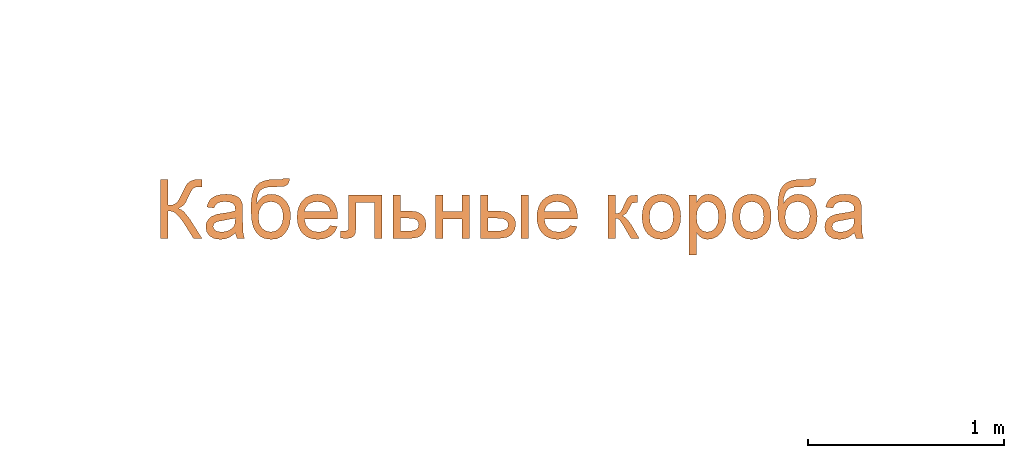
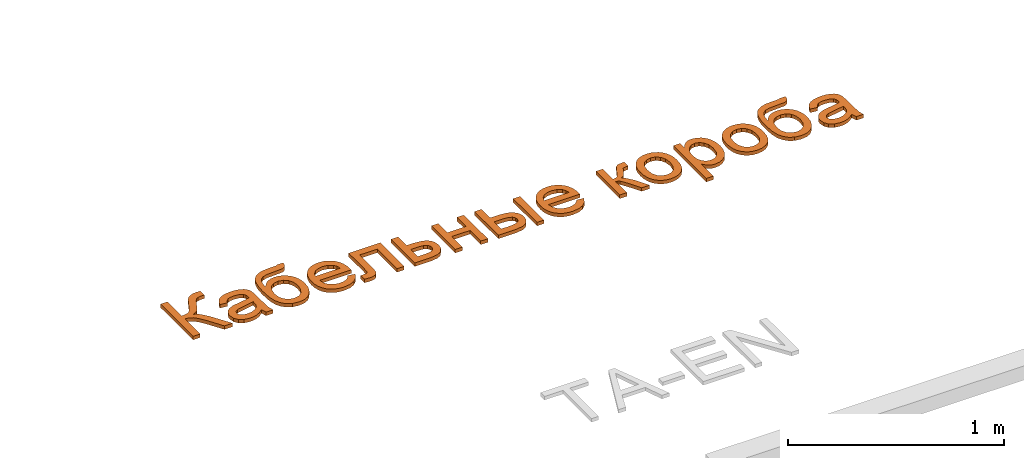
# One storey, part 28 of 71: 1 proxy.
"""IFC2X3 building model written with IfcOpenShell, lengths in millimetres."""

from ifc_helpers import new_model, entity, si_unit, converted_unit, derived_unit, direction, frame, frame_2d, origin, place, context, subcontext, project, spatial, polyline, rectangle, outline, extrude, element, save


model = new_model("IFC2X3")

# Units and contexts
model_context = context("Model", 3, precision=0.01, world=origin(), true_north=direction((6.12303176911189e-17, 1.0)))
body_context = subcontext(model_context, "Body", "Model", "MODEL_VIEW")
ifc_project = project(units=[si_unit("LENGTHUNIT", "METRE", prefix="MILLI"), si_unit("AREAUNIT", "SQUARE_METRE"), si_unit("VOLUMEUNIT", "CUBIC_METRE"), converted_unit("PLANEANGLEUNIT", "DEGREE", entity("IfcRatioMeasure", 0.0174532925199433), si_unit("PLANEANGLEUNIT", "RADIAN"), dimensions=[0, 0, 0, 0, 0, 0, 0]), si_unit("MASSUNIT", "GRAM", prefix="KILO"), derived_unit("MASSDENSITYUNIT", [(si_unit("MASSUNIT", "GRAM", prefix="KILO"), 1), (si_unit("LENGTHUNIT", "METRE"), -3)]), si_unit("TIMEUNIT", "SECOND"), si_unit("FREQUENCYUNIT", "HERTZ"), si_unit("THERMODYNAMICTEMPERATUREUNIT", "DEGREE_CELSIUS"), derived_unit("THERMALTRANSMITTANCEUNIT", [(si_unit("MASSUNIT", "GRAM", prefix="KILO"), 1), (si_unit("THERMODYNAMICTEMPERATUREUNIT", "KELVIN"), -1), (si_unit("TIMEUNIT", "SECOND"), -3)]), derived_unit("VOLUMETRICFLOWRATEUNIT", [(si_unit("LENGTHUNIT", "METRE"), 3), (si_unit("TIMEUNIT", "SECOND"), -1)]), si_unit("ELECTRICCURRENTUNIT", "AMPERE"), si_unit("ELECTRICVOLTAGEUNIT", "VOLT"), si_unit("POWERUNIT", "WATT"), si_unit("FORCEUNIT", "NEWTON", prefix="KILO"), si_unit("ILLUMINANCEUNIT", "LUX"), si_unit("LUMINOUSFLUXUNIT", "LUMEN"), si_unit("LUMINOUSINTENSITYUNIT", "CANDELA"), derived_unit("USERDEFINED", [(si_unit("MASSUNIT", "GRAM", prefix="KILO"), -1), (si_unit("LENGTHUNIT", "METRE"), -2), (si_unit("TIMEUNIT", "SECOND"), 3), (si_unit("LUMINOUSFLUXUNIT", "LUMEN"), 1)]), derived_unit("LINEARVELOCITYUNIT", [(si_unit("LENGTHUNIT", "METRE"), 1), (si_unit("TIMEUNIT", "SECOND"), -1)]), si_unit("PRESSUREUNIT", "PASCAL"), derived_unit("USERDEFINED", [(si_unit("LENGTHUNIT", "METRE"), -2), (si_unit("MASSUNIT", "GRAM", prefix="KILO"), 1), (si_unit("TIMEUNIT", "SECOND"), -2)])], contexts=[model_context])

# Site, building, storey
site_placement = place(None, origin())
site = spatial("IfcSite", under=ifc_project, at=site_placement, Name="Default", CompositionType="ELEMENT")
building_placement = place(site_placement, origin())
building = spatial("IfcBuilding", under=site, at=building_placement, Name="Наименование здания", CompositionType="ELEMENT")
storey_placement = place(building_placement, origin())
storey = spatial("IfcBuildingStorey", under=building, at=storey_placement, Name="Этаж 01", CompositionType="ELEMENT", Elevation=0.0)

# Proxy
proxy_placement = place(storey_placement, origin())
element("IfcBuildingElementProxy", 1, at=proxy_placement, inside=storey, Name="Текст модели:300 мм Arial", ObjectType="Текст модели:300 мм Arial", context=body_context, shape_type="SweptSolid", body=[
    extrude(outline(polyline([(-113.949345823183, -119.34472944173), (187.419584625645, -119.34472944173), (187.419584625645, -81.6736131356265), (46.1528984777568, -81.6736131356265), (49.1603337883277, -59.8306196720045), (58.1826397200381, -42.4206042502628), (75.2799554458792, -25.3968649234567), (102.512420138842, -4.71269974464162), (187.419584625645, 48.8509187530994), (187.419584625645, 92.5552997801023), (86.9142235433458, 29.2060202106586), (51.4136110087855, 0.529618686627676), (40.5886833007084, -13.9603333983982), (34.3806746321, -28.5514530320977), (18.7824780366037, -2.54219597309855), (2.08063545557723, 9.55192461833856), (-52.9729051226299, 36.0118371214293), (-67.2283324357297, 46.4964739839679), (-74.0157552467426, 58.6733680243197), (-76.2782295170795, 75.9270335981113), (-75.8367711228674, 92.5552997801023), (-113.507887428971, 92.5552997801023), (-113.949345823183, 67.8336297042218), (-111.834024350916, 50.2212791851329), (-105.488059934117, 34.1724271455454), (-96.0426897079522, 20.6527638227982), (-84.6291508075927, 10.6279794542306), (-9.66399724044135, -26.1142348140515), (7.92995917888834, -39.5511246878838), (15.4071607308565, -56.1701938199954), (17.8995612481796, -81.6736131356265), (-113.949345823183, -81.6736131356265), (-113.949345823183, -119.34472944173)])), frame((-476.780492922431, 5189.93839492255, 0.0), z_axis=(0.0, 0.0, 1.0), x_axis=(0.0, -1.0, 0.0)), (0.0, 0.0, 1.0), 20.0),
    extrude(outline(polyline([(109.632642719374, 21.6400019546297), (139.414275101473, 21.6400019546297), (151.326928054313, 57.3779608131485), (118.904502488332, 60.2746899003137), (56.2118396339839, 79.1557794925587), (11.748793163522, 93.9767949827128), (-20.1035933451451, 102.655348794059), (-34.9333339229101, 102.809492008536), (-48.012240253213, 99.7818866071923), (-60.1401120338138, 92.6854820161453), (-72.1167489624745, 80.6332276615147), (-83.2645025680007, 63.0696262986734), (-92.9057243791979, 39.4391806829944), (-99.5047989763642, 13.650730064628), (-101.433043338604, -10.107683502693), (-98.7108160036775, -30.9664596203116), (-91.3584755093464, -48.0559978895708), (-79.0880939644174, -62.4320339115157), (-61.6117434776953, -75.1503032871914), (-45.2318456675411, -40.9014260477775), (-57.7232627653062, -28.8462633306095), (-63.8802662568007, -15.528871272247), (-64.0809432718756, 1.05752027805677), (-58.7033809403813, 22.9196814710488), (-48.4543113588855, 45.0581371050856), (-35.2038116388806, 58.9833769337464), (-22.308132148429, 62.8863994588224), (-5.53851375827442, 60.0303874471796), (2.34896544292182, 57.1685587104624), (0.499246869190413, 29.5158477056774), (-6.02711866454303, -8.9094381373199), (-10.9597015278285, -41.6226999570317), (-7.57436753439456, -70.5550904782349), (-1.92341912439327, -83.6165466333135), (6.95581170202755, -95.3692396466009), (18.6997796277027, -104.984286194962), (32.944939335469, -111.632802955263), (58.4832707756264, -115.114112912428), (82.3289352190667, -107.968266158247), (102.393728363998, -90.1778125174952), (116.589445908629, -61.7253018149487), (121.426052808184, -41.3405887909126), (122.301469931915, -21.0896604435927), (118.58167424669, -0.315226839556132), (109.632642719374, 21.6400019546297)]), holes=[polyline([(38.156725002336, 45.4653078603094), (48.2080259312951, 41.8822052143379), (63.7910324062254, 35.1173539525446), (73.9644845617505, 27.014655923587), (82.023557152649, 13.7030805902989), (86.8892476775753, -3.19741411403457), (87.6483302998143, -22.296630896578), (83.3875791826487, -42.2043724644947), (75.4157574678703, -59.6632727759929), (65.227763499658, -70.8575601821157), (53.8589743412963, -75.9384695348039), (42.3447670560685, -75.0572356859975), (30.2227120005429, -65.5876072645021), (25.4413639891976, -48.5213358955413), (29.8969753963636, -15.8429744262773), (38.156725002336, 45.4653078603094)])]), frame((-269.903563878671, 5127.93563512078, 0.0), z_axis=(0.0, 0.0, 1.0), x_axis=(0.316227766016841, -0.948683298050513, 0.0)), (0.0, 0.0, 1.0), 20.0),
    extrude(outline(polyline([(-113.288756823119, 71.1787230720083), (-141.510608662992, 54.1482952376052), (-129.203599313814, 40.6605330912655), (-118.008509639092, 33.9996047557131), (-107.205239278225, 32.580583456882), (-96.0736878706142, 34.8185424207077), (-21.4409333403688, 74.5705532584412), (2.32590846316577, 81.3073745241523), (20.3664318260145, 79.0028904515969), (37.1057783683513, 69.8118357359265), (53.2325508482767, 53.9993604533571), (69.4353520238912, 31.8306146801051), (45.5941107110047, 42.0210394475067), (22.8699481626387, 45.8389018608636), (1.23761199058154, 43.2904471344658), (-19.3281501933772, 34.3819204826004), (-35.9150659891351, 22.1463238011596), (-48.9496088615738, 7.60189855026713), (-58.4317788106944, -9.2513552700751), (-64.3615758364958, -28.413437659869), (-66.3162260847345, -48.9739728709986), (-63.8729557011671, -70.0225851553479), (-57.0317646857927, -91.5592745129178), (-45.7926530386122, -113.584040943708), (-24.2287426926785, -142.572017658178), (-0.364421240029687, -161.879097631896), (24.2730848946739, -173.211038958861), (48.1565492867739, -178.273599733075), (72.8418448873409, -175.461895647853), (99.8848446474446, -163.171042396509), (126.701387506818, -141.800326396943), (141.636002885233, -117.223100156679), (147.228456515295, -90.1947630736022), (146.018514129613, -61.4707145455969), (133.67430502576, -24.5666571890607), (105.863958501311, 27.0017063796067), (83.8410588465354, 60.0389917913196), (62.401204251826, 85.1944773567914), (41.5443947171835, 102.468163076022), (21.2706302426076, 111.860048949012), (0.612785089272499, 114.714688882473), (-21.3962664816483, 112.376636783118), (-44.7565244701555, 104.845892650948), (-69.467988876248, 92.1224564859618), (-105.8124207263, 71.1787230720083), (-113.288756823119, 71.1787230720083)]), holes=[polyline([(-14.1473376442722, -93.1127715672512), (-25.9661341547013, -65.6237820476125), (-27.7418114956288, -38.9705651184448), (-18.9448841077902, -15.4546180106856), (0.954133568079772, 2.62256204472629), (27.3354121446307, 12.1294073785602), (40.3740279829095, 11.9814229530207), (53.3112948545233, 8.5658337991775), (77.3834733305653, -6.86690530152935), (98.0536392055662, -32.9675565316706), (110.610185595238, -62.7827526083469), (110.797677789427, -90.1150687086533), (100.457096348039, -113.209056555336), (81.4294218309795, -130.30926787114), (56.9314826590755, -138.593680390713), (31.1880305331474, -134.632042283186), (6.67108418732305, -119.209892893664), (-14.1473376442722, -93.1127715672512)])]), frame((-30.0637968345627, 5189.12195395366, 0.0), z_axis=(0.0, 0.0, -1.0), x_axis=(-0.856187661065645, -0.516664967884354, 0.0)), (0.0, 0.0, -1.0), 20.0),
    extrude(outline(polyline([(-9.29802617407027, -75.8566611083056), (-26.8306332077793, -108.704820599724), (3.56775144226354, -113.955407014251), (32.8230438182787, -108.674298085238), (59.9984289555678, -92.7832033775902), (84.1570918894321, -66.2038324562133), (96.1620849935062, -46.0614577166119), (103.65130823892, -25.838752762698), (106.624761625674, -5.53571759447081), (105.082445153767, 14.8476477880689), (99.011967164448, 34.6660777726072), (88.4009359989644, 53.2743067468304), (73.2493516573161, 70.6723347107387), (53.5572141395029, 86.8601616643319), (31.0596964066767, 100.584097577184), (8.99213631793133, 109.526058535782), (-12.6454661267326, 113.686044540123), (-33.8531109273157, 113.06405559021), (-53.9060969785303, 108.053690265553), (-72.0797231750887, 99.0485471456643), (-88.3739895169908, 86.0486262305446), (-102.788896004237, 69.0539275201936), (-113.658425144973, 50.4204956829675), (-120.210650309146, 31.2442368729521), (-122.445571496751, 11.5251510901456), (-120.363188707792, -8.73676166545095), (-113.816971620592, -28.7151265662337), (-102.660389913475, -47.583568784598), (-86.8934435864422, -65.3420883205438), (-66.5161326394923, -81.9906851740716), (-58.1074951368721, -87.6861196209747), (39.8593178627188, 50.3890575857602), (59.0835694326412, 28.7538147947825), (67.2251442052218, 4.40423779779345), (64.9709656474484, -20.8014716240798), (53.0079572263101, -45.0051116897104), (39.8008874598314, -60.2180076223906), (25.2142222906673, -70.5728170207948), (8.9479287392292, -75.8566611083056), (-9.29802617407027, -75.8566611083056)]), holes=[polyline([(9.13594075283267, 72.1878443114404), (-67.1598127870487, -35.3439755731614), (-80.4432259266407, -19.6717769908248), (-86.2748434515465, -3.28747293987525), (-84.3671677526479, 22.2881318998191), (-71.9803673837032, 47.3751539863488), (-54.4135940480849, 66.0466161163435), (-33.6450905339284, 77.0560555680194), (-11.7651484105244, 79.4282168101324), (9.13594075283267, 72.1878443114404)])]), frame((202.622287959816, 5104.75533915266, 0.0), z_axis=(0.0, 0.0, -1.0), x_axis=(-0.578660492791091, -0.815568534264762, 0.0)), (0.0, 0.0, -1.0), 20.0),
    extrude(outline(polyline([(-155.101092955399, 35.5430211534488), (-155.101092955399, -133.977002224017), (65.9959861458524, -133.977002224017), (65.9959861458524, -96.3058859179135), (-117.429976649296, -96.3058859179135), (-117.429976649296, -2.12809515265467), (-11.8478440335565, -2.12809515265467), (36.8597321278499, 0.41029061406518), (47.886994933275, 5.16516540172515), (57.4243356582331, 14.3530182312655), (64.0186204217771, 28.2957458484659), (66.2167153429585, 47.3152449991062), (64.3037289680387, 77.9230269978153), (28.5455990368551, 77.9230269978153), (28.5455990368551, 61.0740316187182), (26.2279424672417, 44.0410952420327), (18.8703025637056, 37.2352783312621), (-13.9815596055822, 35.5430211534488), (-155.101092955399, 35.5430211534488)])), frame((400.031264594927, 5068.73552563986, 0.0), z_axis=(0.0, 0.0, -1.0), x_axis=(0.0, -1.0, 0.0)), (0.0, 0.0, -1.0), 20.0),
    extrude(outline(polyline([(-128.949105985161, -106.932805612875), (92.3687023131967, -106.932805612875), (92.3687023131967, -19.4504671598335), (87.2091573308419, 17.6596291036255), (80.7597261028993, 31.8207866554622), (71.7305223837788, 43.0526838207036), (48.9862180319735, 57.7035842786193), (22.0296648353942, 62.5872177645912), (-7.57563872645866, 56.8482586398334), (-19.6950512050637, 49.6745597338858), (-30.0256374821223, 39.6313812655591), (-38.2822890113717, 26.9302553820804), (-44.1798972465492, 11.7827142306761), (-48.8979838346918, -25.8516138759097), (-48.8979838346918, -69.2616893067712), (-128.949105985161, -69.2616893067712), (-128.949105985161, -106.932805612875)]), holes=[polyline([(54.6975860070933, -69.2616893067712), (-11.2268675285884, -69.2616893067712), (-11.2268675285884, -29.6040102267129), (-8.68848176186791, -1.2678995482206), (-1.0733244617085, 14.8729229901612), (9.79758849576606, 22.4053068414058), (22.1032412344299, 24.9161014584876), (36.6621711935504, 21.5223900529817), (46.7881231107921, 11.341255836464), (52.720220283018, -6.8045235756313), (54.6975860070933, -34.0921705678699), (54.6975860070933, -69.2616893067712)])]), frame((697.447746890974, 5094.8875126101, 0.0), z_axis=(0.0, 0.0, 1.0), x_axis=(0.0, -1.0, 0.0)), (0.0, 0.0, 1.0), 20.0),
    extrude(outline(polyline([(-108.304459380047, -87.1144564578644), (113.013348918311, -87.1144564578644), (113.013348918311, -49.4433401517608), (14.1266686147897, -49.4433401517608), (14.1266686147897, 49.443340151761), (113.013348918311, 49.443340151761), (113.013348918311, 87.1144564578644), (-108.304459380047, 87.1144564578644), (-108.304459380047, 49.443340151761), (-23.5444476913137, 49.443340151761), (-23.5444476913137, -49.4433401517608), (-108.304459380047, -49.4433401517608), (-108.304459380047, -87.1144564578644)])), frame((894.238316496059, 5115.53215921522, 0.0), z_axis=(0.0, 0.0, 1.0), x_axis=(0.0, -1.0, 0.0)), (0.0, 0.0, 1.0), 20.0),
    extrude(outline(polyline([(-129.32161186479, -116.217168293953), (91.9961964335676, -116.217168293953), (91.9961964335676, -23.8787875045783), (86.8366514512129, 15.2730538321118), (80.3872202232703, 30.2205591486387), (71.3580165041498, 42.0824542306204), (48.6137121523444, 57.5610891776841), (21.6571589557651, 62.7206341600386), (5.96009407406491, 61.1824275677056), (-7.94814460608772, 56.5678077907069), (-20.0675570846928, 48.876774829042), (-30.3981433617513, 38.1093286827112), (-38.6547948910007, 24.4999941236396), (-44.5524031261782, 8.2832959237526), (-49.2704897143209, -31.9721913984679), (-49.2704897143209, -78.5460519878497), (-129.32161186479, -78.5460519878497), (-129.32161186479, -116.217168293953)]), holes=[polyline([(54.3250801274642, -78.5460519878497), (-11.5993734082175, -78.5460519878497), (-11.5993734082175, -34.9152473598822), (-9.06098764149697, -3.78323351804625), (-1.44583034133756, 13.9762697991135), (9.42508261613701, 22.2812058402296), (21.7307353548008, 25.0495178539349), (36.2896653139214, 21.3155156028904), (46.4156172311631, 10.1135088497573), (52.3477144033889, -9.84408938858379), (54.3250801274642, -39.8448660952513), (54.3250801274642, -78.5460519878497)])]), frame((1154.07661570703, 5094.51500673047, 0.0), z_axis=(0.0, 0.0, 1.0), x_axis=(0.0, -1.0, 0.0)), (0.0, 0.0, 1.0), 20.0),
    extrude(outline(polyline([(-9.29802617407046, -75.8566611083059), (-26.8306332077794, -108.704820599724), (3.56775144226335, -113.955407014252), (32.8230438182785, -108.674298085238), (59.9984289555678, -92.7832033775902), (84.1570918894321, -66.2038324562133), (96.1620849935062, -46.061457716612), (103.65130823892, -25.8387527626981), (106.624761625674, -5.53571759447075), (105.082445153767, 14.8476477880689), (99.0119671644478, 34.6660777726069), (88.4009359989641, 53.27430674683), (73.2493516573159, 70.6723347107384), (53.5572141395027, 86.8601616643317), (31.0596964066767, 100.584097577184), (8.99213631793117, 109.526058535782), (-12.6454661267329, 113.686044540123), (-33.8531109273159, 113.064055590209), (-53.9060969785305, 108.053690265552), (-72.0797231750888, 99.0485471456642), (-88.3739895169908, 86.0486262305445), (-102.788896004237, 69.0539275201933), (-113.658425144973, 50.4204956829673), (-120.210650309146, 31.2442368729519), (-122.445571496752, 11.5251510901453), (-120.363188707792, -8.73676166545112), (-113.816971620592, -28.715126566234), (-102.660389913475, -47.5835687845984), (-86.8934435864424, -65.3420883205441), (-66.5161326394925, -81.9906851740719), (-58.1074951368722, -87.6861196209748), (39.8593178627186, 50.38905758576), (59.083569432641, 28.7538147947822), (67.2251442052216, 4.40423779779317), (64.9709656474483, -20.8014716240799), (53.00795722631, -45.0051116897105), (39.8008874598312, -60.2180076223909), (25.2142222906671, -70.5728170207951), (8.947928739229, -75.8566611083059), (-9.29802617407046, -75.8566611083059)]), holes=[polyline([(9.13594075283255, 72.1878443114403), (-67.1598127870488, -35.3439755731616), (-80.4432259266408, -19.6717769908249), (-86.2748434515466, -3.28747293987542), (-84.367167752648, 22.288131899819), (-71.9803673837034, 47.3751539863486), (-54.413594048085, 66.0466161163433), (-33.6450905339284, 77.0560555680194), (-11.7651484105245, 79.4282168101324), (9.13594075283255, 72.1878443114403)])]), frame((1426.93356790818, 5104.75533915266, 0.0), z_axis=(0.0, 0.0, -1.0), x_axis=(-0.578660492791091, -0.815568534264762, 0.0)), (0.0, 0.0, -1.0), 20.0),
    extrude(outline(polyline([(-92.1976330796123, -85.1594264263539), (129.120175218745, -85.1594264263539), (129.120175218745, -47.4883101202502), (25.5246053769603, -47.4883101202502), (27.2628478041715, -36.5438207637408), (32.4775750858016, -27.2548003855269), (61.2091589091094, -7.3891726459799), (129.120175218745, 32.1213536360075), (129.120175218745, 74.9428178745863), (59.7376309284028, 34.6229512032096), (28.8539374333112, 11.2992327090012), (19.4959391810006, -0.528173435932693), (14.1938399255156, -12.4659441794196), (1.06045269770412, 8.83442334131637), (-25.7581447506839, 24.0279497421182), (-50.5533912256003, 36.9773959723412), (-54.526516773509, 55.3714957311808), (-54.3057875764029, 65.5250387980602), (-92.1976330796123, 65.5250387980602), (-92.1976330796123, 58.314551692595), (-89.3281535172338, 30.7601902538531), (-78.2549054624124, 15.6034520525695), (-44.2258209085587, -1.57663712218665), (-18.0326228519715, -13.477619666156), (-4.78887102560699, -22.2516052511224), (0.287900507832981, -32.1660250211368), (1.98015768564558, -47.4883101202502), (-92.1976330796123, -47.4883101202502), (-92.1976330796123, -85.1594264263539)])), frame((1772.84563011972, 5131.63898551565, 0.0), z_axis=(0.0, 0.0, 1.0), x_axis=(0.0, -1.0, 0.0)), (0.0, 0.0, 1.0), 20.0),
    extrude(outline(polyline([(-0.229377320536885, -95.3874471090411), (26.1479590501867, -95.3874471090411), (49.4793057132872, -91.7658632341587), (69.7646626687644, -84.5226954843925), (87.0040299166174, -73.6579438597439), (100.935147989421, -59.8043433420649), (111.295757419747, -43.5946289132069), (118.085858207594, -25.0288005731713), (121.305450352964, -4.10685832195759), (119.659258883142, 22.644595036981), (111.137222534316, 47.6856680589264), (96.2709912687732, 69.2676051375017), (75.5922150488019, 85.6416506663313), (47.2756049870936, 96.6589942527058), (9.4958721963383, 102.170825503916), (-15.4440446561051, 102.059101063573), (-37.7671193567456, 98.3167797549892), (-57.473351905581, 90.9438615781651), (-74.5627423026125, 79.9403465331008), (-88.5474044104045, 66.0072735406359), (-98.9394520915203, 49.8456815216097), (-105.738885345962, 31.4555704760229), (-108.945704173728, 10.8369404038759), (-108.636916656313, -8.04907106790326), (-105.175445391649, -25.6466417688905), (-98.5612903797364, -41.9557716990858), (-88.7944516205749, -56.9764608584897), (-72.9824052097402, -72.2927248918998), (-52.9508773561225, -83.7999772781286), (-28.6998680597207, -91.4982180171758), (-0.229377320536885, -95.3874471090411)]), holes=[polyline([(2.13700462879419, -57.790656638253), (-31.5841834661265, -51.233504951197), (-54.9205080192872, -36.6132063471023), (-68.1007471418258, -16.0346845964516), (-71.3536789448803, 8.39713653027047), (-64.9677103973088, 31.9545293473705), (-49.1835960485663, 50.6439854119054), (-24.4231993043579, 62.2256502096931), (8.89161642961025, 64.4596692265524), (43.3745569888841, 57.8530781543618), (67.087168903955, 43.2083576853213), (80.4074567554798, 22.6576120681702), (83.7134251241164, -1.66705444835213), (77.3113738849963, -25.4722462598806), (61.5266638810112, -44.1708800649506), (36.4412293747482, -55.648501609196), (2.13700462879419, -57.790656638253)])]), frame((1957.11715216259, 5119.12667287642, 0.0), z_axis=(0.0, 0.0, 1.0), x_axis=(0.0647659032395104, -0.997900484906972, 0.0)), (0.0, 0.0, 1.0), 20.0),
    extrude(outline(polyline([(-99.8542099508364, -188.324679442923), (-62.183093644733, -188.324679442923), (-62.183093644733, -74.1341081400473), (-51.5421069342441, -87.6445744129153), (-38.3075521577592, -98.5982608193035), (-22.8473113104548, -105.854733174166), (-5.52926638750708, -108.273557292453), (18.8889010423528, -104.659116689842), (42.1114519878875, -93.8157948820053), (62.0506561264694, -76.1942473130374), (76.6187831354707, -52.2451294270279), (85.5307244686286, -23.4307721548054), (88.501371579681, 8.78649357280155), (85.8710153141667, 39.0815758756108), (77.9799465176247, 66.8382724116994), (64.920135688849, 90.3459319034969), (46.7835533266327, 107.893903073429), (24.5082985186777, 118.81999833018), (-0.967529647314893, 122.462030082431), (-20.0973933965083, 119.859264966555), (-36.1370483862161, 112.050969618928), (-49.8958350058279, 99.0371440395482), (-62.183093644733, 80.8177882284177), (-62.183093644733, 117.753140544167), (-99.8542099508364, 117.753140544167), (-99.8542099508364, -188.324679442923)]), holes=[polyline([(-62.183093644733, 5.32840281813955), (-57.8328890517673, 39.4954431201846), (-44.7822752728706, 64.4470394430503), (-26.0846728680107, 79.7049451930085), (-4.79350239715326, 84.7909137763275), (16.4148946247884, 80.0084478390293), (34.4227182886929, 65.6610500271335), (46.7283710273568, 41.7119321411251), (50.8302552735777, 8.12430598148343), (46.6272034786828, -26.9164540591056), (34.0180480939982, -51.399000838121), (15.5227807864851, -65.8015809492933), (-6.33860677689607, -70.6024409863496), (-27.850506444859, -65.9671278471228), (-45.8859212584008, -52.0611884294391), (-58.1088005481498, -28.4431643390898), (-62.183093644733, 5.32840281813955)])]), frame((2201.92269301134, 5106.0834780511, 0.0)), (0.0, 0.0, 1.0), 20.0),
    extrude(outline(polyline([(-0.229377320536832, -95.3874471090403), (26.1479590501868, -95.3874471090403), (49.4793057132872, -91.7658632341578), (69.7646626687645, -84.5226954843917), (87.0040299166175, -73.657943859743), (100.935147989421, -59.8043433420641), (111.295757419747, -43.5946289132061), (118.085858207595, -25.0288005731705), (121.305450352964, -4.10685832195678), (119.659258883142, 22.6445950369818), (111.137222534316, 47.6856680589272), (96.2709912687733, 69.2676051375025), (75.5922150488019, 85.6416506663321), (47.2756049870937, 96.6589942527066), (9.49587219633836, 102.170825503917), (-15.444044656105, 102.059101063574), (-37.7671193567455, 98.31677975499), (-57.473351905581, 90.9438615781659), (-74.5627423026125, 79.9403465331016), (-88.5474044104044, 66.0072735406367), (-98.9394520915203, 49.8456815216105), (-105.738885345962, 31.4555704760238), (-108.945704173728, 10.8369404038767), (-108.636916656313, -8.04907106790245), (-105.175445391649, -25.6466417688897), (-98.5612903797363, -41.955771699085), (-88.7944516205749, -56.9764608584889), (-72.9824052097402, -72.292724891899), (-52.9508773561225, -83.7999772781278), (-28.6998680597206, -91.498218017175), (-0.229377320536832, -95.3874471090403)]), holes=[polyline([(2.13700462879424, -57.7906566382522), (-31.5841834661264, -51.2335049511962), (-54.9205080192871, -36.6132063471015), (-68.1007471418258, -16.0346845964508), (-71.3536789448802, 8.39713653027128), (-64.9677103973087, 31.9545293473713), (-49.1835960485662, 50.6439854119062), (-24.4231993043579, 62.2256502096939), (8.8916164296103, 64.4596692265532), (43.3745569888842, 57.8530781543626), (67.087168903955, 43.2083576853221), (80.4074567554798, 22.657612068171), (83.7134251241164, -1.66705444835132), (77.3113738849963, -25.4722462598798), (61.5266638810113, -44.1708800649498), (36.4412293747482, -55.6485016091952), (2.13700462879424, -57.7906566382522)])]), frame((2418.58832691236, 5119.12667287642, 0.0), z_axis=(0.0, 0.0, 1.0), x_axis=(0.0647659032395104, -0.997900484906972, 0.0)), (0.0, 0.0, 1.0), 20.0),
    extrude(outline(polyline([(-113.288756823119, 71.1787230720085), (-141.510608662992, 54.1482952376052), (-129.203599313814, 40.6605330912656), (-118.008509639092, 33.9996047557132), (-107.205239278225, 32.580583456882), (-96.0736878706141, 34.8185424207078), (-21.440933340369, 74.5705532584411), (2.32590846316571, 81.3073745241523), (20.3664318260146, 79.0028904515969), (37.1057783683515, 69.8118357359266), (53.2325508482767, 53.9993604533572), (69.4353520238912, 31.8306146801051), (45.5941107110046, 42.0210394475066), (22.8699481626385, 45.8389018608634), (1.23761199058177, 43.2904471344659), (-19.328150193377, 34.3819204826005), (-35.9150659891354, 22.1463238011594), (-48.949608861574, 7.60189855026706), (-58.4317788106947, -9.25135527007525), (-64.361575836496, -28.4134376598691), (-66.3162260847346, -48.9739728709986), (-63.8729557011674, -70.0225851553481), (-57.0317646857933, -91.5592745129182), (-45.7926530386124, -113.584040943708), (-24.228742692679, -142.572017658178), (-0.364421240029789, -161.879097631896), (24.2730848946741, -173.211038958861), (48.156549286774, -178.273599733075), (72.8418448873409, -175.461895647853), (99.8848446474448, -163.171042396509), (126.701387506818, -141.800326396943), (141.636002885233, -117.223100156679), (147.228456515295, -90.1947630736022), (146.018514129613, -61.4707145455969), (133.67430502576, -24.5666571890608), (105.863958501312, 27.0017063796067), (83.8410588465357, 60.0389917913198), (62.4012042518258, 85.1944773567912), (41.5443947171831, 102.468163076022), (21.2706302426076, 111.860048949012), (0.612785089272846, 114.714688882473), (-21.3962664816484, 112.376636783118), (-44.7565244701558, 104.845892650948), (-69.4679888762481, 92.1224564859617), (-105.812420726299, 71.1787230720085), (-113.288756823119, 71.1787230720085)]), holes=[polyline([(-14.1473376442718, -93.112771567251), (-25.9661341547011, -65.6237820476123), (-27.7418114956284, -38.9705651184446), (-18.9448841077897, -15.4546180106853), (0.954133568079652, 2.62256204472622), (27.3354121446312, 12.1294073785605), (40.3740279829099, 11.981422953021), (53.3112948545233, 8.56583379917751), (77.3834733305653, -6.86690530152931), (98.0536392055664, -32.9675565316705), (110.610185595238, -62.7827526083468), (110.797677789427, -90.1150687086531), (100.457096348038, -113.209056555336), (81.4294218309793, -130.30926787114), (56.9314826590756, -138.593680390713), (31.1880305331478, -134.632042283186), (6.67108418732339, -119.209892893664), (-14.1473376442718, -93.112771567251)])]), frame((2658.71212951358, 5189.12195395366, 0.0), z_axis=(0.0, 0.0, -1.0), x_axis=(-0.856187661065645, -0.516664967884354, 0.0)), (0.0, 0.0, -1.0), 20.0),
    extrude(outline(polyline([(109.632642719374, 21.6400019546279), (139.414275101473, 21.6400019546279), (151.326928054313, 57.3779608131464), (118.904502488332, 60.2746899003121), (56.2118396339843, 79.1557794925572), (11.7487931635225, 93.9767949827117), (-20.1035933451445, 102.655348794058), (-34.9333339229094, 102.809492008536), (-48.0122402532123, 99.7818866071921), (-60.1401120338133, 92.6854820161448), (-72.1167489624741, 80.6332276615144), (-83.2645025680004, 63.0696262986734), (-92.9057243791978, 39.4391806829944), (-99.5047989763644, 13.650730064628), (-101.433043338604, -10.1076835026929), (-98.710816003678, -30.9664596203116), (-91.3584755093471, -48.055997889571), (-79.0880939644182, -62.4320339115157), (-61.6117434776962, -75.1503032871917), (-45.2318456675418, -40.901426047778), (-57.7232627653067, -28.8462633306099), (-63.880266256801, -15.5288712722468), (-64.0809432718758, 1.05752027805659), (-58.7033809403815, 22.9196814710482), (-48.4543113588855, 45.0581371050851), (-35.2038116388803, 58.983376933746), (-22.3081321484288, 62.8863994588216), (-5.53851375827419, 60.0303874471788), (2.34896544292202, 57.1685587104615), (0.499246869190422, 29.5158477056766), (-6.02711866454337, -8.90943813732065), (-10.9597015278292, -41.6226999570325), (-7.57436753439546, -70.5550904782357), (-1.92341912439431, -83.6165466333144), (6.95581170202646, -95.3692396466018), (18.6997796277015, -104.984286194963), (32.9449393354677, -111.632802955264), (58.4832707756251, -115.11411291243), (82.3289352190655, -107.968266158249), (102.393728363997, -90.1778125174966), (116.589445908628, -61.7253018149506), (121.426052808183, -41.3405887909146), (122.301469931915, -21.089660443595), (118.581674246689, -0.315226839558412), (109.632642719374, 21.6400019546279)]), holes=[polyline([(38.1567250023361, 45.4653078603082), (48.2080259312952, 41.8822052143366), (63.7910324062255, 35.1173539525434), (73.9644845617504, 27.0146559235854), (82.0235571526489, 13.7030805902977), (86.8892476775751, -3.19741411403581), (87.6483302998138, -22.2966308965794), (83.3875791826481, -42.2043724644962), (75.4157574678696, -59.6632727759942), (65.2277634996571, -70.8575601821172), (53.8589743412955, -75.9384695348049), (42.3447670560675, -75.0572356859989), (30.222712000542, -65.5876072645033), (25.4413639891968, -48.5213358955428), (29.8969753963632, -15.8429744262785), (38.1567250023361, 45.4653078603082)])]), frame((2889.76131629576, 5127.93563512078, 0.0), z_axis=(0.0, 0.0, 1.0), x_axis=(0.316227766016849, -0.94868329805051, 0.0)), (0.0, 0.0, 1.0), 20.0),
    extrude(rectangle(XDim=221.317808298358, YDim=37.6711163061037, at=frame_2d((5.40012479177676e-13, 1.35003119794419e-13), x_axis=(1.0, 0.0))), frame((1263.8861452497, 5113.17771444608, 0.0), z_axis=(0.0, 0.0, 1.0), x_axis=(0.0, -1.0, 0.0)), (0.0, 0.0, 1.0), 20.0),
])

save(model, "model.ifc")
